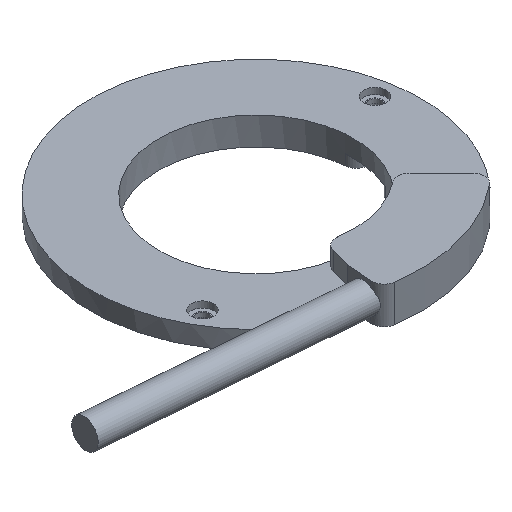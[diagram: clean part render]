
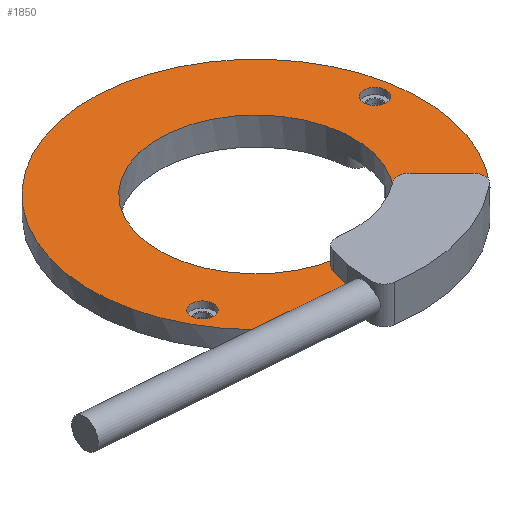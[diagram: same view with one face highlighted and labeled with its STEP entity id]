
A CAD part, isometric view. The second image highlights one B-rep face of the part: STEP entity #1850.
In plain terms, the highlighted planar face has unit normal (0, 0, 1).
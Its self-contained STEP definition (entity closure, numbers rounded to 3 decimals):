
#195=LINE('',#3247,#308);
#196=LINE('',#3249,#309);
#197=LINE('',#3257,#310);
#308=VECTOR('',#2660,1000.);
#309=VECTOR('',#2661,1000.);
#310=VECTOR('',#2668,1000.);
#677=ORIENTED_EDGE('',*,*,#1049,.T.);
#678=ORIENTED_EDGE('',*,*,#1050,.T.);
#679=ORIENTED_EDGE('',*,*,#1051,.F.);
#680=ORIENTED_EDGE('',*,*,#1052,.T.);
#681=ORIENTED_EDGE('',*,*,#1053,.F.);
#682=ORIENTED_EDGE('',*,*,#1054,.F.);
#683=ORIENTED_EDGE('',*,*,#1055,.T.);
#684=ORIENTED_EDGE('',*,*,#1056,.T.);
#685=ORIENTED_EDGE('',*,*,#1057,.T.);
#686=ORIENTED_EDGE('',*,*,#1058,.F.);
#687=ORIENTED_EDGE('',*,*,#1059,.T.);
#1049=EDGE_CURVE('',#1266,#1266,#1432,.T.);
#1050=EDGE_CURVE('',#1267,#1267,#1433,.T.);
#1051=EDGE_CURVE('',#1268,#1269,#1434,.T.);
#1052=EDGE_CURVE('',#1268,#1270,#1435,.F.);
#1053=EDGE_CURVE('',#1271,#1270,#195,.T.);
#1054=EDGE_CURVE('',#1272,#1271,#196,.T.);
#1055=EDGE_CURVE('',#1272,#1273,#1436,.T.);
#1056=EDGE_CURVE('',#1273,#1274,#1437,.T.);
#1057=EDGE_CURVE('',#1274,#1275,#1438,.T.);
#1058=EDGE_CURVE('',#1276,#1275,#197,.T.);
#1059=EDGE_CURVE('',#1276,#1269,#1439,.T.);
#1266=VERTEX_POINT('',#3239);
#1267=VERTEX_POINT('',#3241);
#1268=VERTEX_POINT('',#3243);
#1269=VERTEX_POINT('',#3244);
#1270=VERTEX_POINT('',#3246);
#1271=VERTEX_POINT('',#3248);
#1272=VERTEX_POINT('',#3250);
#1273=VERTEX_POINT('',#3252);
#1274=VERTEX_POINT('',#3254);
#1275=VERTEX_POINT('',#3256);
#1276=VERTEX_POINT('',#3258);
#1432=CIRCLE('',#2155,1.8);
#1433=CIRCLE('',#2156,1.8);
#1434=CIRCLE('',#2157,26.9);
#1435=CIRCLE('',#2158,2.);
#1436=CIRCLE('',#2159,2.);
#1437=CIRCLE('',#2160,15.8);
#1438=CIRCLE('',#2161,2.);
#1439=CIRCLE('',#2162,2.);
#1561=EDGE_LOOP('',(#677));
#1562=EDGE_LOOP('',(#678));
#1563=EDGE_LOOP('',(#679,#680,#681,#682,#683,#684,#685,#686,#687));
#1700=FACE_BOUND('',#1561,.T.);
#1701=FACE_BOUND('',#1562,.T.);
#1702=FACE_BOUND('',#1563,.T.);
#1770=PLANE('',#2154);
#1850=ADVANCED_FACE('',(#1700,#1701,#1702),#1770,.F.);
#2154=AXIS2_PLACEMENT_3D('',#3237,#2650,#2651);
#2155=AXIS2_PLACEMENT_3D('',#3238,#2652,#2653);
#2156=AXIS2_PLACEMENT_3D('',#3240,#2654,#2655);
#2157=AXIS2_PLACEMENT_3D('',#3242,#2656,#2657);
#2158=AXIS2_PLACEMENT_3D('',#3245,#2658,#2659);
#2159=AXIS2_PLACEMENT_3D('',#3251,#2662,#2663);
#2160=AXIS2_PLACEMENT_3D('',#3253,#2664,#2665);
#2161=AXIS2_PLACEMENT_3D('',#3255,#2666,#2667);
#2162=AXIS2_PLACEMENT_3D('',#3259,#2669,#2670);
#2650=DIRECTION('',(0.,0.,-1.));
#2651=DIRECTION('',(-1.,0.,0.));
#2652=DIRECTION('',(0.,0.,-1.));
#2653=DIRECTION('',(0.,-1.,0.));
#2654=DIRECTION('',(0.,0.,-1.));
#2655=DIRECTION('',(0.,-1.,0.));
#2656=DIRECTION('',(0.,0.,-1.));
#2657=DIRECTION('',(-1.,0.,0.));
#2658=DIRECTION('',(0.,0.,-1.));
#2659=DIRECTION('',(-1.,0.,0.));
#2660=DIRECTION('',(0.82,-0.572,0.));
#2661=DIRECTION('',(0.707,0.707,0.));
#2662=DIRECTION('',(0.,0.,-1.));
#2663=DIRECTION('',(-1.,0.,0.));
#2664=DIRECTION('',(0.,0.,-1.));
#2665=DIRECTION('',(-1.,0.,0.));
#2666=DIRECTION('',(0.,0.,-1.));
#2667=DIRECTION('',(-1.,0.,0.));
#2668=DIRECTION('',(0.259,-0.966,0.));
#2669=DIRECTION('',(0.,0.,-1.));
#2670=DIRECTION('',(-1.,0.,0.));
#3237=CARTESIAN_POINT('',(-15.8,0.,4.5));
#3238=CARTESIAN_POINT('',(-22.365,8.14,4.5));
#3239=CARTESIAN_POINT('',(-22.365,6.34,4.5));
#3240=CARTESIAN_POINT('',(23.8,0.,4.5));
#3241=CARTESIAN_POINT('',(23.8,-1.8,4.5));
#3242=CARTESIAN_POINT('',(0.,0.,4.5));
#3243=CARTESIAN_POINT('',(26.122,6.422,4.5));
#3244=CARTESIAN_POINT('',(-4.853,26.459,4.5));
#3245=CARTESIAN_POINT('',(24.18,5.944,4.5));
#3246=CARTESIAN_POINT('',(25.323,7.585,4.5));
#3247=CARTESIAN_POINT('',(1.197,24.395,4.5));
#3248=CARTESIAN_POINT('',(14.869,14.869,4.5));
#3249=CARTESIAN_POINT('',(11.172,11.172,4.5));
#3250=CARTESIAN_POINT('',(12.507,12.507,4.5));
#3251=CARTESIAN_POINT('',(11.093,13.921,4.5));
#3252=CARTESIAN_POINT('',(9.846,12.357,4.5));
#3253=CARTESIAN_POINT('',(0.,0.,4.5));
#3254=CARTESIAN_POINT('',(-2.349,15.624,4.5));
#3255=CARTESIAN_POINT('',(-2.646,17.602,4.5));
#3256=CARTESIAN_POINT('',(-4.578,17.085,4.5));
#3257=CARTESIAN_POINT('',(-4.089,15.262,4.5));
#3258=CARTESIAN_POINT('',(-6.424,23.974,4.5));
#3259=CARTESIAN_POINT('',(-4.492,24.491,4.5));
